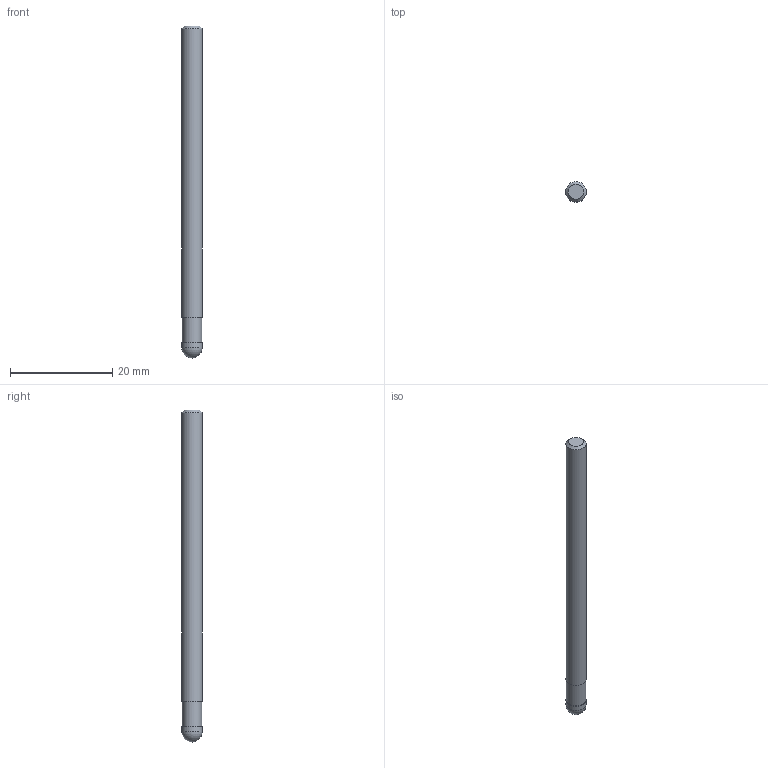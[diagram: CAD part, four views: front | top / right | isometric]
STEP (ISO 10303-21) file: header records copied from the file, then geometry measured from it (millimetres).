
FILE_DESCRIPTION((''),'2;1');
FILE_NAME('C:\Users\nsx150\AppData\Local\Temp\Mastercam 2021\ARV7HD45SN\TEMP.step','2023-06-13T16:38:58',(''),(''),'STEP Write','Mastercam 2021 ... CNC Software, Inc.','');
FILE_SCHEMA(('AUTOMOTIVE_DESIGN'));
Length unit declared in the file: millimetre
Products named in the file (1): None
Bounding box: 4 x 4 x 65 mm (x, y, z)
Volume: 800.9 mm3; surface area: 847.4 mm2
Topology: 2 solids, 2 shells, 9 faces, 13 edges, 8 vertices
Faces by surface type: plane 4, cylinder 3, sphere 1, cone 1
Full cylindrical faces by diameter (mm): 3.8 x1, 4 x2
Entity records: 211 total; most frequent: DIRECTION 36, CARTESIAN_POINT 25, AXIS2_PLACEMENT_3D 18, ORIENTED_EDGE 14, EDGE_LOOP 14, STYLED_ITEM 12, ADVANCED_FACE 9, FACE_BOUND 8
